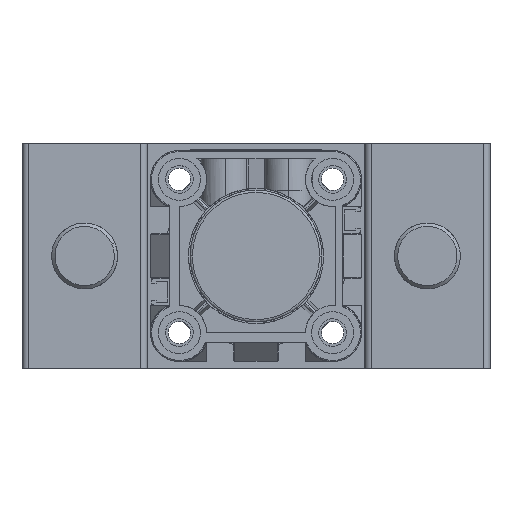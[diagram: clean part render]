
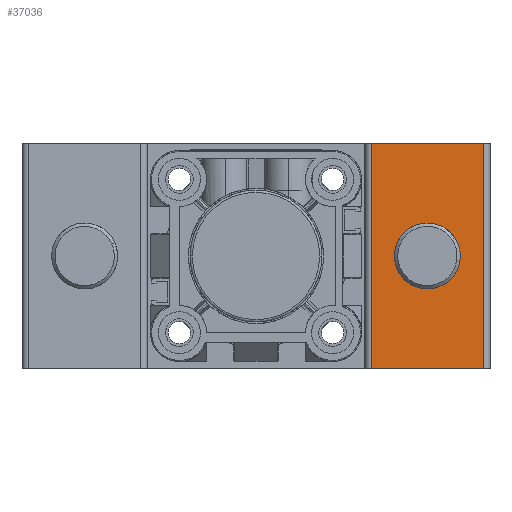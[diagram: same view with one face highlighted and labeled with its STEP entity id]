
A CAD part, front view. The second image highlights one B-rep face of the part: STEP entity #37036.
In plain terms, the highlighted planar face has unit normal (0, -1, 0).
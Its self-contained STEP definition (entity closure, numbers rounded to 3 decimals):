
#3448 = EDGE_CURVE ( 'NONE', #33508, #8656, #14055, .T. ) ;
#3502 = AXIS2_PLACEMENT_3D ( 'NONE', #14324, #23476, #5319 ) ;
#3684 = VECTOR ( 'NONE', #8871, 1000. ) ;
#4313 = ORIENTED_EDGE ( 'NONE', *, *, #25326, .F. ) ;
#4522 = DIRECTION ( 'NONE',  ( 1., 0., 0. ) ) ;
#5319 = DIRECTION ( 'NONE',  ( 0., 0., 1. ) ) ;
#6042 = EDGE_CURVE ( 'NONE', #23719, #19718, #20747, .T. ) ;
#7926 = ORIENTED_EDGE ( 'NONE', *, *, #18681, .T. ) ;
#8109 = CARTESIAN_POINT ( 'NONE',  ( 123., -151., 34.25 ) ) ;
#8656 = VERTEX_POINT ( 'NONE', #28731 ) ;
#8871 = DIRECTION ( 'NONE',  ( 0., 0., -1. ) ) ;
#10090 = VECTOR ( 'NONE', #4522, 1000. ) ;
#10185 = LINE ( 'NONE', #28951, #25344 ) ;
#10866 = EDGE_CURVE ( 'NONE', #22221, #25156, #20489, .T. ) ;
#11127 = DIRECTION ( 'NONE',  ( 0., 0., -1. ) ) ;
#11727 = CARTESIAN_POINT ( 'NONE',  ( 123., -151., 34.25 ) ) ;
#13522 = CARTESIAN_POINT ( 'NONE',  ( 140., -151., 68.5 ) ) ;
#13982 = FACE_BOUND ( 'NONE', #29931, .T. ) ;
#14055 = LINE ( 'NONE', #17443, #23067 ) ;
#14061 = ORIENTED_EDGE ( 'NONE', *, *, #3448, .F. ) ;
#14324 = CARTESIAN_POINT ( 'NONE',  ( 140., -151., 68.5 ) ) ;
#14555 = DIRECTION ( 'NONE',  ( 0., 0., -1. ) ) ;
#14791 = DIRECTION ( 'NONE',  ( 0., 0., -1. ) ) ;
#16852 = EDGE_CURVE ( 'NONE', #25156, #22221, #20689, .T. ) ;
#17385 = CARTESIAN_POINT ( 'NONE',  ( 140., -151., 68.5 ) ) ;
#17443 = CARTESIAN_POINT ( 'NONE',  ( 140., -151., 68.5 ) ) ;
#18681 = EDGE_CURVE ( 'NONE', #19718, #8656, #10185, .T. ) ;
#19718 = VERTEX_POINT ( 'NONE', #35465 ) ;
#20489 = CIRCLE ( 'NONE', #31804, 10. ) ;
#20689 = CIRCLE ( 'NONE', #31668, 10. ) ;
#20747 = LINE ( 'NONE', #30077, #3684 ) ;
#22221 = VERTEX_POINT ( 'NONE', #36371 ) ;
#23067 = VECTOR ( 'NONE', #14555, 1000. ) ;
#23476 = DIRECTION ( 'NONE',  ( 0., 1., 0. ) ) ;
#23719 = VERTEX_POINT ( 'NONE', #29923 ) ;
#25046 = ORIENTED_EDGE ( 'NONE', *, *, #16852, .F. ) ;
#25156 = VERTEX_POINT ( 'NONE', #38887 ) ;
#25326 = EDGE_CURVE ( 'NONE', #23719, #33508, #26190, .T. ) ;
#25344 = VECTOR ( 'NONE', #38076, 1000. ) ;
#26190 = LINE ( 'NONE', #13522, #10090 ) ;
#28542 = ORIENTED_EDGE ( 'NONE', *, *, #6042, .T. ) ;
#28731 = CARTESIAN_POINT ( 'NONE',  ( 140., -151., 0. ) ) ;
#28951 = CARTESIAN_POINT ( 'NONE',  ( 140., -151., 0. ) ) ;
#29275 = DIRECTION ( 'NONE',  ( 0., -1., 0. ) ) ;
#29923 = CARTESIAN_POINT ( 'NONE',  ( 106., -151., 68.5 ) ) ;
#29931 = EDGE_LOOP ( 'NONE', ( #25046, #38056 ) ) ;
#30077 = CARTESIAN_POINT ( 'NONE',  ( 106., -151., 68.5 ) ) ;
#31668 = AXIS2_PLACEMENT_3D ( 'NONE', #8109, #29275, #11127 ) ;
#31804 = AXIS2_PLACEMENT_3D ( 'NONE', #11727, #32935, #14791 ) ;
#32830 = EDGE_LOOP ( 'NONE', ( #7926, #14061, #4313, #28542 ) ) ;
#32935 = DIRECTION ( 'NONE',  ( 0., -1., 0. ) ) ;
#33508 = VERTEX_POINT ( 'NONE', #17385 ) ;
#35465 = CARTESIAN_POINT ( 'NONE',  ( 106., -151., 0. ) ) ;
#36248 = FACE_OUTER_BOUND ( 'NONE', #32830, .T. ) ;
#36371 = CARTESIAN_POINT ( 'NONE',  ( 123., -151., 44.25 ) ) ;
#37036 = ADVANCED_FACE ( 'NONE', ( #13982, #36248 ), #38408, .F. ) ;
#38056 = ORIENTED_EDGE ( 'NONE', *, *, #10866, .F. ) ;
#38076 = DIRECTION ( 'NONE',  ( 1., 0., 0. ) ) ;
#38408 = PLANE ( 'NONE',  #3502 ) ;
#38887 = CARTESIAN_POINT ( 'NONE',  ( 123., -151., 24.25 ) ) ;
